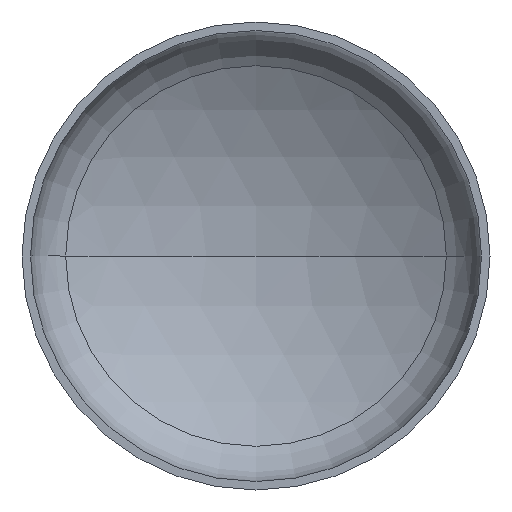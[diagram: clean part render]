
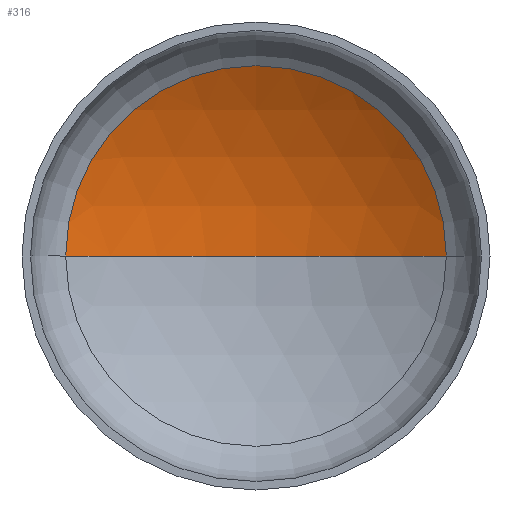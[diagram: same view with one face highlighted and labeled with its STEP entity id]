
A CAD part, front view. The second image highlights one B-rep face of the part: STEP entity #316.
In plain terms, the highlighted spherical face has radius 1280 mm.
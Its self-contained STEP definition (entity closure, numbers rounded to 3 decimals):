
#1 = VERTEX_POINT ( 'NONE', #258 ) ;
#6 = AXIS2_PLACEMENT_3D ( 'NONE', #381, #392, #138 ) ;
#16 = EDGE_LOOP ( 'NONE', ( #133, #124, #85 ) ) ;
#24 = DIRECTION ( 'NONE',  ( 1., 0., 0. ) ) ;
#31 = DIRECTION ( 'NONE',  ( 0., -1., 0. ) ) ;
#37 = AXIS2_PLACEMENT_3D ( 'NONE', #193, #205, #206 ) ;
#39 = AXIS2_PLACEMENT_3D ( 'NONE', #74, #379, #215 ) ;
#42 = AXIS2_PLACEMENT_3D ( 'NONE', #160, #31, #24 ) ;
#45 = VERTEX_POINT ( 'NONE', #290 ) ;
#57 = FACE_OUTER_BOUND ( 'NONE', #16, .T. ) ;
#62 = CARTESIAN_POINT ( 'NONE',  ( -650.512, 301.002, 0. ) ) ;
#74 = CARTESIAN_POINT ( 'NONE',  ( 0., -801.375, 0. ) ) ;
#85 = ORIENTED_EDGE ( 'NONE', *, *, #113, .T. ) ;
#113 = EDGE_CURVE ( 'NONE', #45, #243, #395, .T. ) ;
#114 = EDGE_CURVE ( 'NONE', #1, #45, #332, .T. ) ;
#116 = EDGE_CURVE ( 'NONE', #1, #243, #270, .T. ) ;
#124 = ORIENTED_EDGE ( 'NONE', *, *, #114, .T. ) ;
#133 = ORIENTED_EDGE ( 'NONE', *, *, #116, .F. ) ;
#138 = DIRECTION ( 'NONE',  ( -1., 0., 0. ) ) ;
#160 = CARTESIAN_POINT ( 'NONE',  ( 0., 301.002, 0. ) ) ;
#193 = CARTESIAN_POINT ( 'NONE',  ( 0., -801.375, 0. ) ) ;
#205 = DIRECTION ( 'NONE',  ( 0., 0., 1. ) ) ;
#206 = DIRECTION ( 'NONE',  ( 1., 0., 0. ) ) ;
#215 = DIRECTION ( 'NONE',  ( -1., 0., 0. ) ) ;
#243 = VERTEX_POINT ( 'NONE', #62 ) ;
#258 = CARTESIAN_POINT ( 'NONE',  ( 0., 478.625, 0. ) ) ;
#270 = CIRCLE ( 'NONE', #37, 1280. ) ;
#290 = CARTESIAN_POINT ( 'NONE',  ( 650.512, 301.002, 0. ) ) ;
#310 = SPHERICAL_SURFACE ( 'NONE', #6, 1280. ) ;
#316 = ADVANCED_FACE ( 'NONE', ( #57 ), #310, .F. ) ;
#332 = CIRCLE ( 'NONE', #39, 1280. ) ;
#379 = DIRECTION ( 'NONE',  ( 0., 0., -1. ) ) ;
#381 = CARTESIAN_POINT ( 'NONE',  ( 0., -801.375, 0. ) ) ;
#392 = DIRECTION ( 'NONE',  ( 0., 0., -1. ) ) ;
#395 = CIRCLE ( 'NONE', #42, 650.512 ) ;
